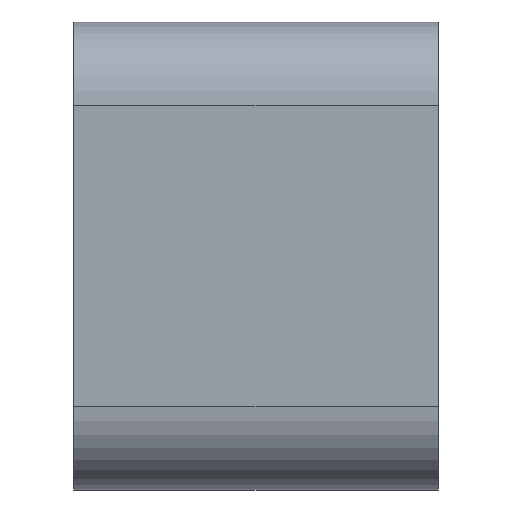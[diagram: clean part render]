
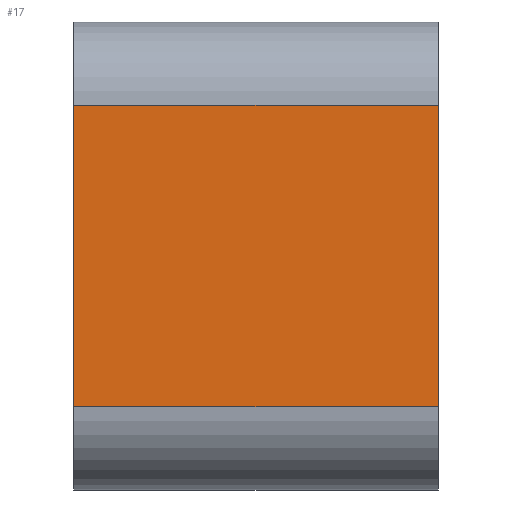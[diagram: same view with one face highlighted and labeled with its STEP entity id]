
A CAD part, top view. The second image highlights one B-rep face of the part: STEP entity #17.
In plain terms, the highlighted planar face has unit normal (0, 0, 1).
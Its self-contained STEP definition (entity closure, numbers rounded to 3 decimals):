
#17 = ADVANCED_FACE('',(#18),#32,.T.);
#18 = FACE_BOUND('',#19,.T.);
#19 = EDGE_LOOP('',(#20,#55,#83,#111));
#20 = ORIENTED_EDGE('',*,*,#21,.T.);
#21 = EDGE_CURVE('',#22,#24,#26,.T.);
#22 = VERTEX_POINT('',#23);
#23 = CARTESIAN_POINT('',(-32.,-47.9,16.9));
#24 = VERTEX_POINT('',#25);
#25 = CARTESIAN_POINT('',(-32.,-42.1,16.9));
#26 = SURFACE_CURVE('',#27,(#31,#43),.PCURVE_S1.);
#27 = LINE('',#28,#29);
#28 = CARTESIAN_POINT('',(-32.,-47.9,16.9));
#29 = VECTOR('',#30,1.);
#30 = DIRECTION('',(0.,1.,0.));
#31 = PCURVE('',#32,#37);
#32 = PLANE('',#33);
#33 = AXIS2_PLACEMENT_3D('',#34,#35,#36);
#34 = CARTESIAN_POINT('',(-35.5,-47.9,16.9));
#35 = DIRECTION('',(0.,0.,1.));
#36 = DIRECTION('',(0.,1.,0.));
#37 = DEFINITIONAL_REPRESENTATION('',(#38),#42);
#38 = LINE('',#39,#40);
#39 = CARTESIAN_POINT('',(0.,-3.5));
#40 = VECTOR('',#41,1.);
#41 = DIRECTION('',(1.,0.));
#42 = ( GEOMETRIC_REPRESENTATION_CONTEXT(2) 
PARAMETRIC_REPRESENTATION_CONTEXT() REPRESENTATION_CONTEXT('2D SPACE',''
  ) );
#43 = PCURVE('',#44,#49);
#44 = PLANE('',#45);
#45 = AXIS2_PLACEMENT_3D('',#46,#47,#48);
#46 = CARTESIAN_POINT('',(-32.,-45.,15.3));
#47 = DIRECTION('',(-1.,-0.,-0.));
#48 = DIRECTION('',(0.,0.,-1.));
#49 = DEFINITIONAL_REPRESENTATION('',(#50),#54);
#50 = LINE('',#51,#52);
#51 = CARTESIAN_POINT('',(-1.6,2.9));
#52 = VECTOR('',#53,1.);
#53 = DIRECTION('',(0.,-1.));
#54 = ( GEOMETRIC_REPRESENTATION_CONTEXT(2) 
PARAMETRIC_REPRESENTATION_CONTEXT() REPRESENTATION_CONTEXT('2D SPACE',''
  ) );
#55 = ORIENTED_EDGE('',*,*,#56,.T.);
#56 = EDGE_CURVE('',#24,#57,#59,.T.);
#57 = VERTEX_POINT('',#58);
#58 = CARTESIAN_POINT('',(-39.,-42.1,16.9));
#59 = SURFACE_CURVE('',#60,(#64,#71),.PCURVE_S1.);
#60 = LINE('',#61,#62);
#61 = CARTESIAN_POINT('',(-32.,-42.1,16.9));
#62 = VECTOR('',#63,1.);
#63 = DIRECTION('',(-1.,0.,0.));
#64 = PCURVE('',#32,#65);
#65 = DEFINITIONAL_REPRESENTATION('',(#66),#70);
#66 = LINE('',#67,#68);
#67 = CARTESIAN_POINT('',(5.8,-3.5));
#68 = VECTOR('',#69,1.);
#69 = DIRECTION('',(0.,1.));
#70 = ( GEOMETRIC_REPRESENTATION_CONTEXT(2) 
PARAMETRIC_REPRESENTATION_CONTEXT() REPRESENTATION_CONTEXT('2D SPACE',''
  ) );
#71 = PCURVE('',#72,#77);
#72 = CYLINDRICAL_SURFACE('',#73,1.6);
#73 = AXIS2_PLACEMENT_3D('',#74,#75,#76);
#74 = CARTESIAN_POINT('',(-35.5,-42.1,15.3));
#75 = DIRECTION('',(-1.,0.,0.));
#76 = DIRECTION('',(0.,0.,1.));
#77 = DEFINITIONAL_REPRESENTATION('',(#78),#82);
#78 = LINE('',#79,#80);
#79 = CARTESIAN_POINT('',(0.,-3.5));
#80 = VECTOR('',#81,1.);
#81 = DIRECTION('',(-0.,1.));
#82 = ( GEOMETRIC_REPRESENTATION_CONTEXT(2) 
PARAMETRIC_REPRESENTATION_CONTEXT() REPRESENTATION_CONTEXT('2D SPACE',''
  ) );
#83 = ORIENTED_EDGE('',*,*,#84,.F.);
#84 = EDGE_CURVE('',#85,#57,#87,.T.);
#85 = VERTEX_POINT('',#86);
#86 = CARTESIAN_POINT('',(-39.,-47.9,16.9));
#87 = SURFACE_CURVE('',#88,(#92,#99),.PCURVE_S1.);
#88 = LINE('',#89,#90);
#89 = CARTESIAN_POINT('',(-39.,-47.9,16.9));
#90 = VECTOR('',#91,1.);
#91 = DIRECTION('',(0.,1.,0.));
#92 = PCURVE('',#32,#93);
#93 = DEFINITIONAL_REPRESENTATION('',(#94),#98);
#94 = LINE('',#95,#96);
#95 = CARTESIAN_POINT('',(0.,3.5));
#96 = VECTOR('',#97,1.);
#97 = DIRECTION('',(1.,0.));
#98 = ( GEOMETRIC_REPRESENTATION_CONTEXT(2) 
PARAMETRIC_REPRESENTATION_CONTEXT() REPRESENTATION_CONTEXT('2D SPACE',''
  ) );
#99 = PCURVE('',#100,#105);
#100 = PLANE('',#101);
#101 = AXIS2_PLACEMENT_3D('',#102,#103,#104);
#102 = CARTESIAN_POINT('',(-39.,-45.,15.3));
#103 = DIRECTION('',(-1.,-0.,-0.));
#104 = DIRECTION('',(0.,0.,-1.));
#105 = DEFINITIONAL_REPRESENTATION('',(#106),#110);
#106 = LINE('',#107,#108);
#107 = CARTESIAN_POINT('',(-1.6,2.9));
#108 = VECTOR('',#109,1.);
#109 = DIRECTION('',(0.,-1.));
#110 = ( GEOMETRIC_REPRESENTATION_CONTEXT(2) 
PARAMETRIC_REPRESENTATION_CONTEXT() REPRESENTATION_CONTEXT('2D SPACE',''
  ) );
#111 = ORIENTED_EDGE('',*,*,#112,.T.);
#112 = EDGE_CURVE('',#85,#22,#113,.T.);
#113 = SURFACE_CURVE('',#114,(#118,#125),.PCURVE_S1.);
#114 = LINE('',#115,#116);
#115 = CARTESIAN_POINT('',(-39.,-47.9,16.9));
#116 = VECTOR('',#117,1.);
#117 = DIRECTION('',(1.,0.,0.));
#118 = PCURVE('',#32,#119);
#119 = DEFINITIONAL_REPRESENTATION('',(#120),#124);
#120 = LINE('',#121,#122);
#121 = CARTESIAN_POINT('',(0.,3.5));
#122 = VECTOR('',#123,1.);
#123 = DIRECTION('',(0.,-1.));
#124 = ( GEOMETRIC_REPRESENTATION_CONTEXT(2) 
PARAMETRIC_REPRESENTATION_CONTEXT() REPRESENTATION_CONTEXT('2D SPACE',''
  ) );
#125 = PCURVE('',#126,#131);
#126 = CYLINDRICAL_SURFACE('',#127,1.6);
#127 = AXIS2_PLACEMENT_3D('',#128,#129,#130);
#128 = CARTESIAN_POINT('',(-35.5,-47.9,15.3));
#129 = DIRECTION('',(-1.,0.,0.));
#130 = DIRECTION('',(0.,0.,-1.));
#131 = DEFINITIONAL_REPRESENTATION('',(#132),#136);
#132 = LINE('',#133,#134);
#133 = CARTESIAN_POINT('',(3.142,3.5));
#134 = VECTOR('',#135,1.);
#135 = DIRECTION('',(0.,-1.));
#136 = ( GEOMETRIC_REPRESENTATION_CONTEXT(2) 
PARAMETRIC_REPRESENTATION_CONTEXT() REPRESENTATION_CONTEXT('2D SPACE',''
  ) );
